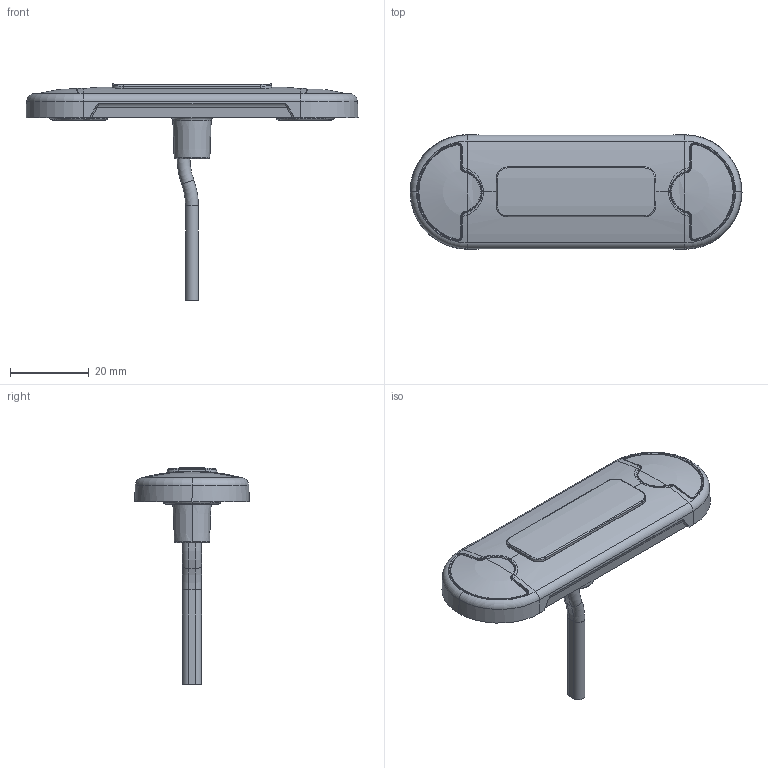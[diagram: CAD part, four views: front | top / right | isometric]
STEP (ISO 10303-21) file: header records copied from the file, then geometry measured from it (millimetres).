
FILE_DESCRIPTION(('CATIA V5 STEP Exchange','CAx-IF Rec.Pracs.--- Model Styling and Organization---1.5--- 2016-08-15','CAx-IF Rec.Pracs.---Supplemental Geometry---1.0---2011-11-01','CAx-IF Rec.Pracs.--- Composite Materials ---1.1---2010-07-15'),'2;1');
FILE_NAME('E:\tmp\ddx\2011204\3D_data_LED_position_lamp_DuraLED_2PF 959 855-20.stp','2022-01-18T07:36:49+00:00',('none'),('none'),'CATIA Version 5-6 Release 2020 SP3 HF9','CATIA V5 STEP AP214 Edition 3 v2','none');
FILE_SCHEMA(('AUTOMOTIVE_DESIGN { 1 0 10303 214 3 1 1 1 }'));
Length unit declared in the file: millimetre
Products named in the file (1): 10002988301_D10_001
Bounding box: 84.31 x 29.11 x 55.04 mm (x, y, z)
Volume: 890.1 mm3; surface area: 9030.8 mm2
Topology: 2 solids, 3 shells, 702 faces, 1986 edges, 1270 vertices
Faces by surface type: bspline 233, plane 170, cylinder 83, torus 74, cone 72, extrusion 42, sphere 28
Entity records: 35490 total; most frequent: CARTESIAN_POINT 21677, ORIENTED_EDGE 3912, EDGE_CURVE 1967, DIRECTION 1439, VERTEX_POINT 1270, B_SPLINE_CURVE_WITH_KNOTS 1002, EDGE_LOOP 719, ADVANCED_FACE 702
